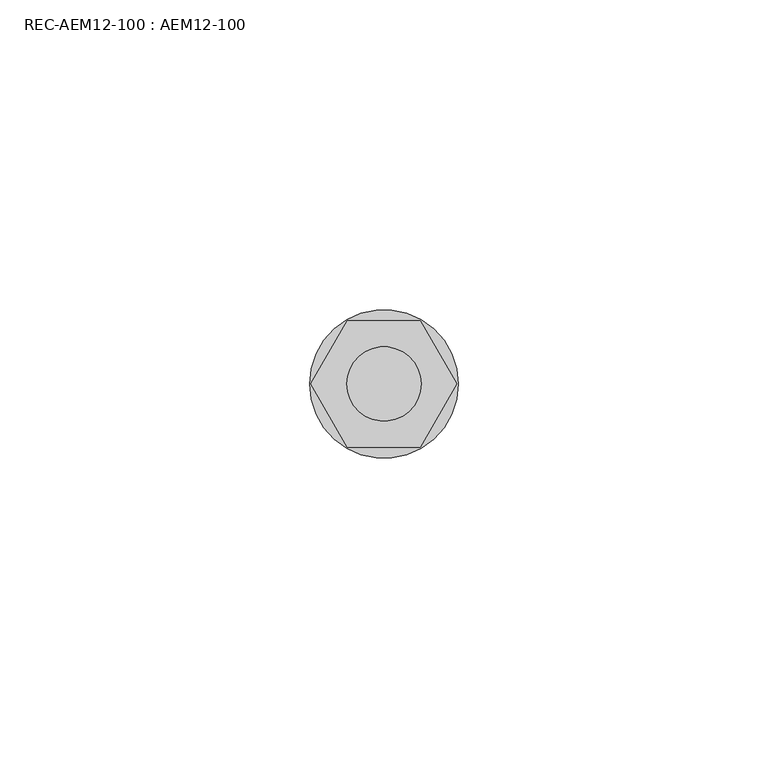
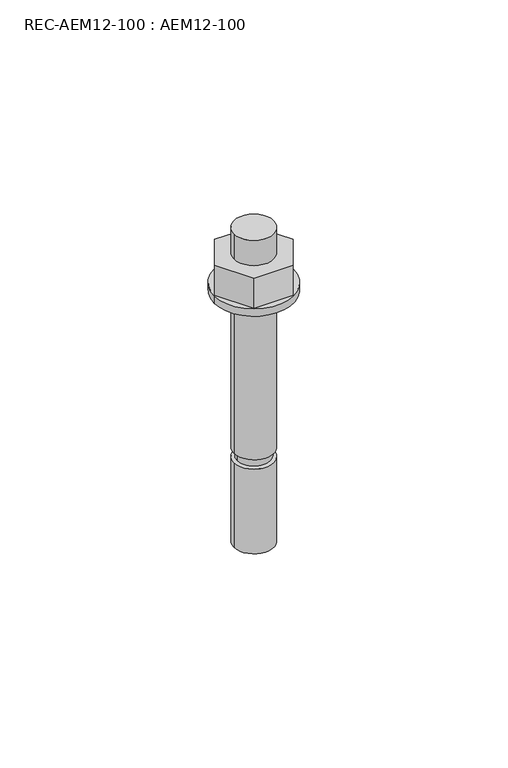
"""IFC4 building model written with IfcOpenShell, lengths in millimetres: fastener geometry, REC-AEM12-100 : AEM12-100."""

from ifc_helpers import new_model, si_unit, point, frame, origin, origin_with_axes, origin_2d, place, context, project, spatial, polyline, circle_curve, trimmed, segment, composite_curve, outline, extrude, source, transform, mapped, element, save


def rec_aem12_100_aem12_100_c00aaa73(model_context):
    return source(origin(), model_context, "Body", "SweptSolid", [
        extrude(outline(polyline([(-5.890503, 10.20264), (5.8904909, 10.20264), (11.7809879, 0.0), (5.8904909, -10.20264), (-5.890503, -10.20264), (-11.781, 0.0), (-5.890503, 10.20264)]), holes=[composite_curve([segment(trimmed(circle_curve(origin_2d(), 6.0), [point((-6.0, 0.0))], [point((6.0, 0.0))], True, "CARTESIAN"), True, "CONTINUOUS"), segment(trimmed(circle_curve(origin_2d(), 6.0), [point((6.0, 0.0))], [point((-6.0, 0.0))], True, "CARTESIAN"), True, "CONTINUOUS")], self_intersect=False)]), frame((0.0, 0.0, 2.3999976), z_axis=(0.0, 0.0, 1.0), x_axis=(1.0, 0.0, 0.0)), (0.0, 0.0, 1.0), 9.6),
        extrude(outline(composite_curve([segment(trimmed(circle_curve(origin_2d(), 12.0), [point((-12.0, 0.0))], [point((12.0, 0.0))], False, "CARTESIAN"), True, "CONTINUOUS"), segment(trimmed(circle_curve(origin_2d(), 12.0), [point((12.0, 0.0))], [point((-12.0, 0.0))], False, "CARTESIAN"), True, "CONTINUOUS")], self_intersect=False), holes=[composite_curve([segment(trimmed(circle_curve(origin_2d(), 7.0), [point((-7.0, 0.0))], [point((7.0, 0.0))], True, "CARTESIAN"), True, "CONTINUOUS"), segment(trimmed(circle_curve(origin_2d(), 7.0), [point((7.0, 0.0))], [point((-7.0, 0.0))], True, "CARTESIAN"), True, "CONTINUOUS")], self_intersect=False)]), origin_with_axes(), (0.0, 0.0, 1.0), 2.3999976),
        extrude(outline(composite_curve([segment(trimmed(circle_curve(origin_2d(), 6.0), [point((-6.0, 0.0))], [point((6.0, 0.0))], False, "CARTESIAN"), True, "CONTINUOUS"), segment(trimmed(circle_curve(origin_2d(), 6.0), [point((6.0, 0.0))], [point((-6.0, 0.0))], False, "CARTESIAN"), True, "CONTINUOUS")], self_intersect=False)), frame((0.0, 0.0, -50.0), z_axis=(0.0, 0.0, 1.0), x_axis=(1.0, 0.0, 0.0)), (0.0, 0.0, 1.0), 70.0),
        extrude(outline(composite_curve([segment(trimmed(circle_curve(origin_2d(), 6.0), [point((-6.0, 0.0))], [point((6.0, 0.0))], False, "CARTESIAN"), True, "CONTINUOUS"), segment(trimmed(circle_curve(origin_2d(), 6.0), [point((6.0, 0.0))], [point((-6.0, 0.0))], False, "CARTESIAN"), True, "CONTINUOUS")], self_intersect=False)), frame((0.0, 0.0, -80.0), z_axis=(0.0, 0.0, 1.0), x_axis=(1.0, 0.0, 0.0)), (0.0, 0.0, 1.0), 27.0),
        extrude(outline(composite_curve([segment(trimmed(circle_curve(origin_2d(), 5.0), [point((-5.0, 0.0))], [point((5.0, 0.0))], False, "CARTESIAN"), True, "CONTINUOUS"), segment(trimmed(circle_curve(origin_2d(), 5.0), [point((5.0, 0.0))], [point((-5.0, 0.0))], False, "CARTESIAN"), True, "CONTINUOUS")], self_intersect=False)), frame((0.0, 0.0, -53.0), z_axis=(0.0, 0.0, 1.0), x_axis=(1.0, 0.0, 0.0)), (0.0, 0.0, 1.0), 3.0),
    ])


if __name__ == "__main__":
    model = new_model("IFC4")
    model_context = context("Model", 3, world=origin())
    ifc_project = project(units=[si_unit("LENGTHUNIT", "METRE", prefix="MILLI")], contexts=[model_context])
    site = spatial("IfcSite", under=ifc_project)
    building = spatial("IfcBuilding", under=site)
    placement = place(None, origin())
    rec_aem12_100_aem12_100_shape = rec_aem12_100_aem12_100_c00aaa73(model_context)
    element("IfcFastener", 1, ObjectType="REC-AEM12-100 : AEM12-100", at=placement, inside=building, context=model_context, shape_type="MappedRepresentation", body=[
        mapped(rec_aem12_100_aem12_100_shape, transform((0.0, 0.0, 0.0), x_axis=(1.0, 0.0, 0.0), y_axis=(0.0, 1.0, 0.0), z_axis=(0.0, 0.0, 1.0))),
    ])
    save(model, "model.ifc")
